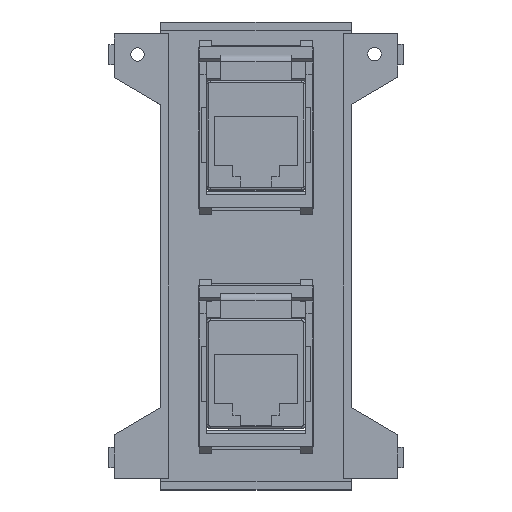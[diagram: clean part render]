
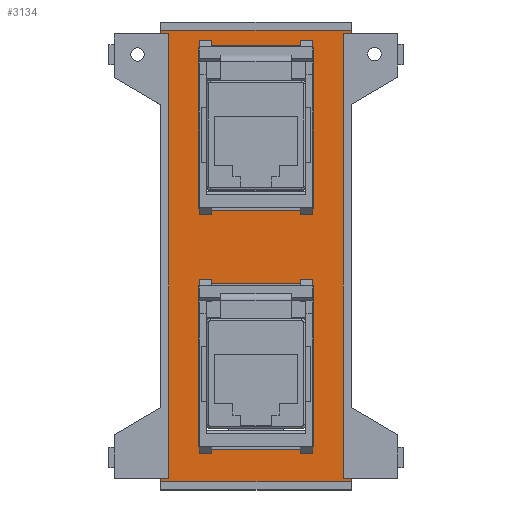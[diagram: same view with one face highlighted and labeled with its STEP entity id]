
A CAD part, top view. The second image highlights one B-rep face of the part: STEP entity #3134.
In plain terms, the highlighted planar face has unit normal (0, 0, 1).
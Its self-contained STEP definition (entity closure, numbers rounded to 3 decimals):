
#2648 = VERTEX_POINT('',#2649);
#2649 = CARTESIAN_POINT('',(-30.95,-7.9,1.2));
#2655 = EDGE_CURVE('',#2656,#2648,#2658,.T.);
#2656 = VERTEX_POINT('',#2657);
#2657 = CARTESIAN_POINT('',(-30.95,7.9,1.2));
#2658 = LINE('',#2659,#2660);
#2659 = CARTESIAN_POINT('',(-30.95,-4.2,1.2));
#2660 = VECTOR('',#2661,1.);
#2661 = DIRECTION('',(0.,-1.,0.));
#2679 = VERTEX_POINT('',#2680);
#2680 = CARTESIAN_POINT('',(-30.45,-8.4,1.2));
#2686 = EDGE_CURVE('',#2648,#2679,#2687,.T.);
#2687 = CIRCLE('',#2688,0.5);
#2688 = AXIS2_PLACEMENT_3D('',#2689,#2690,#2691);
#2689 = CARTESIAN_POINT('',(-30.45,-7.9,1.2));
#2690 = DIRECTION('',(-0.,0.,1.));
#2691 = DIRECTION('',(0.,-1.,0.));
#2703 = EDGE_CURVE('',#2656,#2704,#2706,.T.);
#2704 = VERTEX_POINT('',#2705);
#2705 = CARTESIAN_POINT('',(-30.45,8.4,1.2));
#2706 = CIRCLE('',#2707,0.5);
#2707 = AXIS2_PLACEMENT_3D('',#2708,#2709,#2710);
#2708 = CARTESIAN_POINT('',(-30.45,7.9,1.2));
#2709 = DIRECTION('',(-0.,-0.,-1.));
#2710 = DIRECTION('',(0.,-1.,0.));
#2729 = VERTEX_POINT('',#2730);
#2730 = CARTESIAN_POINT('',(-7.15,-8.4,1.2));
#2736 = EDGE_CURVE('',#2679,#2729,#2737,.T.);
#2737 = LINE('',#2738,#2739);
#2738 = CARTESIAN_POINT('',(-3.325,-8.4,1.2));
#2739 = VECTOR('',#2740,1.);
#2740 = DIRECTION('',(1.,0.,0.));
#2753 = EDGE_CURVE('',#2754,#2704,#2756,.T.);
#2754 = VERTEX_POINT('',#2755);
#2755 = CARTESIAN_POINT('',(-7.15,8.4,1.2));
#2756 = LINE('',#2757,#2758);
#2757 = CARTESIAN_POINT('',(-15.475,8.4,1.2));
#2758 = VECTOR('',#2759,1.);
#2759 = DIRECTION('',(-1.,0.,0.));
#2777 = VERTEX_POINT('',#2778);
#2778 = CARTESIAN_POINT('',(-6.65,-7.9,1.2));
#2784 = EDGE_CURVE('',#2729,#2777,#2785,.T.);
#2785 = CIRCLE('',#2786,0.5);
#2786 = AXIS2_PLACEMENT_3D('',#2787,#2788,#2789);
#2787 = CARTESIAN_POINT('',(-7.15,-7.9,1.2));
#2788 = DIRECTION('',(-0.,0.,1.));
#2789 = DIRECTION('',(0.,-1.,0.));
#2802 = EDGE_CURVE('',#2803,#2754,#2805,.T.);
#2803 = VERTEX_POINT('',#2804);
#2804 = CARTESIAN_POINT('',(-6.65,7.9,1.2));
#2805 = CIRCLE('',#2806,0.5);
#2806 = AXIS2_PLACEMENT_3D('',#2807,#2808,#2809);
#2807 = CARTESIAN_POINT('',(-7.15,7.9,1.2));
#2808 = DIRECTION('',(-0.,0.,1.));
#2809 = DIRECTION('',(0.,-1.,0.));
#2827 = EDGE_CURVE('',#2777,#2803,#2828,.T.);
#2828 = LINE('',#2829,#2830);
#2829 = CARTESIAN_POINT('',(-6.65,4.2,1.2));
#2830 = VECTOR('',#2831,1.);
#2831 = DIRECTION('',(0.,1.,0.));
#2944 = VERTEX_POINT('',#2945);
#2945 = CARTESIAN_POINT('',(4.05,-7.9,1.2));
#2951 = EDGE_CURVE('',#2952,#2944,#2954,.T.);
#2952 = VERTEX_POINT('',#2953);
#2953 = CARTESIAN_POINT('',(4.05,7.9,1.2));
#2954 = LINE('',#2955,#2956);
#2955 = CARTESIAN_POINT('',(4.05,-4.2,1.2));
#2956 = VECTOR('',#2957,1.);
#2957 = DIRECTION('',(0.,-1.,0.));
#2975 = VERTEX_POINT('',#2976);
#2976 = CARTESIAN_POINT('',(4.55,-8.4,1.2));
#2982 = EDGE_CURVE('',#2944,#2975,#2983,.T.);
#2983 = CIRCLE('',#2984,0.5);
#2984 = AXIS2_PLACEMENT_3D('',#2985,#2986,#2987);
#2985 = CARTESIAN_POINT('',(4.55,-7.9,1.2));
#2986 = DIRECTION('',(-0.,0.,1.));
#2987 = DIRECTION('',(0.,-1.,0.));
#2999 = EDGE_CURVE('',#2952,#3000,#3002,.T.);
#3000 = VERTEX_POINT('',#3001);
#3001 = CARTESIAN_POINT('',(4.55,8.4,1.2));
#3002 = CIRCLE('',#3003,0.5);
#3003 = AXIS2_PLACEMENT_3D('',#3004,#3005,#3006);
#3004 = CARTESIAN_POINT('',(4.55,7.9,1.2));
#3005 = DIRECTION('',(-0.,-0.,-1.));
#3006 = DIRECTION('',(0.,-1.,0.));
#3025 = VERTEX_POINT('',#3026);
#3026 = CARTESIAN_POINT('',(27.85,-8.4,1.2));
#3032 = EDGE_CURVE('',#2975,#3025,#3033,.T.);
#3033 = LINE('',#3034,#3035);
#3034 = CARTESIAN_POINT('',(14.175,-8.4,1.2));
#3035 = VECTOR('',#3036,1.);
#3036 = DIRECTION('',(1.,0.,0.));
#3049 = EDGE_CURVE('',#3050,#3000,#3052,.T.);
#3050 = VERTEX_POINT('',#3051);
#3051 = CARTESIAN_POINT('',(27.85,8.4,1.2));
#3052 = LINE('',#3053,#3054);
#3053 = CARTESIAN_POINT('',(2.025,8.4,1.2));
#3054 = VECTOR('',#3055,1.);
#3055 = DIRECTION('',(-1.,0.,0.));
#3073 = VERTEX_POINT('',#3074);
#3074 = CARTESIAN_POINT('',(28.35,-7.9,1.2));
#3080 = EDGE_CURVE('',#3025,#3073,#3081,.T.);
#3081 = CIRCLE('',#3082,0.5);
#3082 = AXIS2_PLACEMENT_3D('',#3083,#3084,#3085);
#3083 = CARTESIAN_POINT('',(27.85,-7.9,1.2));
#3084 = DIRECTION('',(-0.,0.,1.));
#3085 = DIRECTION('',(0.,-1.,0.));
#3098 = EDGE_CURVE('',#3099,#3050,#3101,.T.);
#3099 = VERTEX_POINT('',#3100);
#3100 = CARTESIAN_POINT('',(28.35,7.9,1.2));
#3101 = CIRCLE('',#3102,0.5);
#3102 = AXIS2_PLACEMENT_3D('',#3103,#3104,#3105);
#3103 = CARTESIAN_POINT('',(27.85,7.9,1.2));
#3104 = DIRECTION('',(-0.,0.,1.));
#3105 = DIRECTION('',(0.,-1.,0.));
#3123 = EDGE_CURVE('',#3073,#3099,#3124,.T.);
#3124 = LINE('',#3125,#3126);
#3125 = CARTESIAN_POINT('',(28.35,4.2,1.2));
#3126 = VECTOR('',#3127,1.);
#3127 = DIRECTION('',(0.,1.,0.));
#3134 = ADVANCED_FACE('',(#3135,#3145,#3243),#3253,.T.);
#3135 = FACE_BOUND('',#3136,.T.);
#3136 = EDGE_LOOP('',(#3137,#3138,#3139,#3140,#3141,#3142,#3143,#3144));
#3137 = ORIENTED_EDGE('',*,*,#2753,.F.);
#3138 = ORIENTED_EDGE('',*,*,#2802,.F.);
#3139 = ORIENTED_EDGE('',*,*,#2827,.F.);
#3140 = ORIENTED_EDGE('',*,*,#2784,.F.);
#3141 = ORIENTED_EDGE('',*,*,#2736,.F.);
#3142 = ORIENTED_EDGE('',*,*,#2686,.F.);
#3143 = ORIENTED_EDGE('',*,*,#2655,.F.);
#3144 = ORIENTED_EDGE('',*,*,#2703,.T.);
#3145 = FACE_BOUND('',#3146,.T.);
#3146 = EDGE_LOOP('',(#3147,#3157,#3165,#3173,#3181,#3189,#3197,#3205,
    #3213,#3221,#3229,#3237));
#3147 = ORIENTED_EDGE('',*,*,#3148,.F.);
#3148 = EDGE_CURVE('',#3149,#3151,#3153,.T.);
#3149 = VERTEX_POINT('',#3150);
#3150 = CARTESIAN_POINT('',(-33.15,-14.,1.2));
#3151 = VERTEX_POINT('',#3152);
#3152 = CARTESIAN_POINT('',(-33.15,14.,1.2));
#3153 = LINE('',#3154,#3155);
#3154 = CARTESIAN_POINT('',(-33.15,-14.,1.2));
#3155 = VECTOR('',#3156,1.);
#3156 = DIRECTION('',(0.,1.,0.));
#3157 = ORIENTED_EDGE('',*,*,#3158,.T.);
#3158 = EDGE_CURVE('',#3149,#3159,#3161,.T.);
#3159 = VERTEX_POINT('',#3160);
#3160 = CARTESIAN_POINT('',(-32.65,-14.,1.2));
#3161 = LINE('',#3162,#3163);
#3162 = CARTESIAN_POINT('',(-34.35,-14.,1.2));
#3163 = VECTOR('',#3164,1.);
#3164 = DIRECTION('',(1.,0.,0.));
#3165 = ORIENTED_EDGE('',*,*,#3166,.F.);
#3166 = EDGE_CURVE('',#3167,#3159,#3169,.T.);
#3167 = VERTEX_POINT('',#3168);
#3168 = CARTESIAN_POINT('',(-32.65,-12.8,1.2));
#3169 = LINE('',#3170,#3171);
#3170 = CARTESIAN_POINT('',(-32.65,-12.8,1.2));
#3171 = VECTOR('',#3172,1.);
#3172 = DIRECTION('',(0.,-1.,0.));
#3173 = ORIENTED_EDGE('',*,*,#3174,.F.);
#3174 = EDGE_CURVE('',#3175,#3167,#3177,.T.);
#3175 = VERTEX_POINT('',#3176);
#3176 = CARTESIAN_POINT('',(32.65,-12.8,1.2));
#3177 = LINE('',#3178,#3179);
#3178 = CARTESIAN_POINT('',(32.65,-12.8,1.2));
#3179 = VECTOR('',#3180,1.);
#3180 = DIRECTION('',(-1.,0.,0.));
#3181 = ORIENTED_EDGE('',*,*,#3182,.F.);
#3182 = EDGE_CURVE('',#3183,#3175,#3185,.T.);
#3183 = VERTEX_POINT('',#3184);
#3184 = CARTESIAN_POINT('',(32.65,-14.,1.2));
#3185 = LINE('',#3186,#3187);
#3186 = CARTESIAN_POINT('',(32.65,-14.,1.2));
#3187 = VECTOR('',#3188,1.);
#3188 = DIRECTION('',(0.,1.,0.));
#3189 = ORIENTED_EDGE('',*,*,#3190,.T.);
#3190 = EDGE_CURVE('',#3183,#3191,#3193,.T.);
#3191 = VERTEX_POINT('',#3192);
#3192 = CARTESIAN_POINT('',(33.15,-14.,1.2));
#3193 = LINE('',#3194,#3195);
#3194 = CARTESIAN_POINT('',(-34.35,-14.,1.2));
#3195 = VECTOR('',#3196,1.);
#3196 = DIRECTION('',(1.,0.,0.));
#3197 = ORIENTED_EDGE('',*,*,#3198,.F.);
#3198 = EDGE_CURVE('',#3199,#3191,#3201,.T.);
#3199 = VERTEX_POINT('',#3200);
#3200 = CARTESIAN_POINT('',(33.15,14.,1.2));
#3201 = LINE('',#3202,#3203);
#3202 = CARTESIAN_POINT('',(33.15,14.,1.2));
#3203 = VECTOR('',#3204,1.);
#3204 = DIRECTION('',(0.,-1.,0.));
#3205 = ORIENTED_EDGE('',*,*,#3206,.T.);
#3206 = EDGE_CURVE('',#3199,#3207,#3209,.T.);
#3207 = VERTEX_POINT('',#3208);
#3208 = CARTESIAN_POINT('',(32.65,14.,1.2));
#3209 = LINE('',#3210,#3211);
#3210 = CARTESIAN_POINT('',(34.35,14.,1.2));
#3211 = VECTOR('',#3212,1.);
#3212 = DIRECTION('',(-1.,0.,0.));
#3213 = ORIENTED_EDGE('',*,*,#3214,.F.);
#3214 = EDGE_CURVE('',#3215,#3207,#3217,.T.);
#3215 = VERTEX_POINT('',#3216);
#3216 = CARTESIAN_POINT('',(32.65,12.8,1.2));
#3217 = LINE('',#3218,#3219);
#3218 = CARTESIAN_POINT('',(32.65,12.8,1.2));
#3219 = VECTOR('',#3220,1.);
#3220 = DIRECTION('',(0.,1.,0.));
#3221 = ORIENTED_EDGE('',*,*,#3222,.F.);
#3222 = EDGE_CURVE('',#3223,#3215,#3225,.T.);
#3223 = VERTEX_POINT('',#3224);
#3224 = CARTESIAN_POINT('',(-32.65,12.8,1.2));
#3225 = LINE('',#3226,#3227);
#3226 = CARTESIAN_POINT('',(-32.65,12.8,1.2));
#3227 = VECTOR('',#3228,1.);
#3228 = DIRECTION('',(1.,0.,0.));
#3229 = ORIENTED_EDGE('',*,*,#3230,.F.);
#3230 = EDGE_CURVE('',#3231,#3223,#3233,.T.);
#3231 = VERTEX_POINT('',#3232);
#3232 = CARTESIAN_POINT('',(-32.65,14.,1.2));
#3233 = LINE('',#3234,#3235);
#3234 = CARTESIAN_POINT('',(-32.65,14.,1.2));
#3235 = VECTOR('',#3236,1.);
#3236 = DIRECTION('',(0.,-1.,0.));
#3237 = ORIENTED_EDGE('',*,*,#3238,.T.);
#3238 = EDGE_CURVE('',#3231,#3151,#3239,.T.);
#3239 = LINE('',#3240,#3241);
#3240 = CARTESIAN_POINT('',(34.35,14.,1.2));
#3241 = VECTOR('',#3242,1.);
#3242 = DIRECTION('',(-1.,0.,0.));
#3243 = FACE_BOUND('',#3244,.T.);
#3244 = EDGE_LOOP('',(#3245,#3246,#3247,#3248,#3249,#3250,#3251,#3252));
#3245 = ORIENTED_EDGE('',*,*,#3049,.F.);
#3246 = ORIENTED_EDGE('',*,*,#3098,.F.);
#3247 = ORIENTED_EDGE('',*,*,#3123,.F.);
#3248 = ORIENTED_EDGE('',*,*,#3080,.F.);
#3249 = ORIENTED_EDGE('',*,*,#3032,.F.);
#3250 = ORIENTED_EDGE('',*,*,#2982,.F.);
#3251 = ORIENTED_EDGE('',*,*,#2951,.F.);
#3252 = ORIENTED_EDGE('',*,*,#2999,.T.);
#3253 = PLANE('',#3254);
#3254 = AXIS2_PLACEMENT_3D('',#3255,#3256,#3257);
#3255 = CARTESIAN_POINT('',(0.,0.,1.2));
#3256 = DIRECTION('',(0.,0.,1.));
#3257 = DIRECTION('',(1.,0.,-0.));
